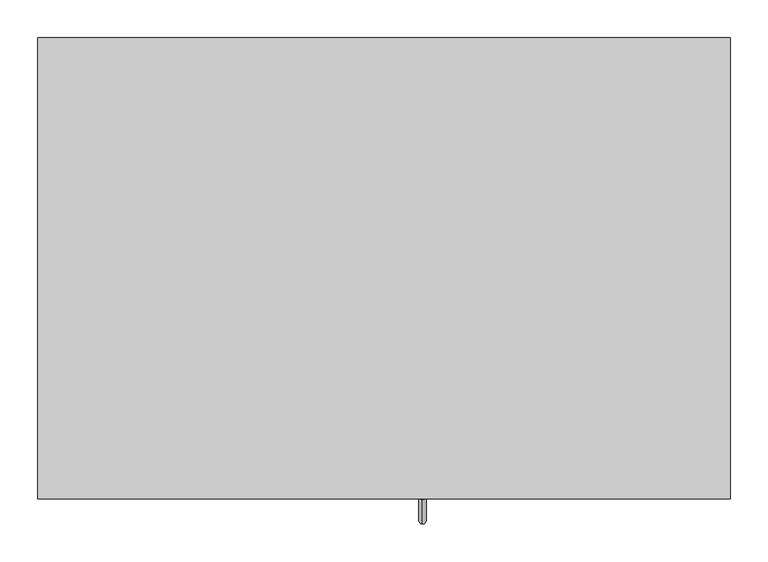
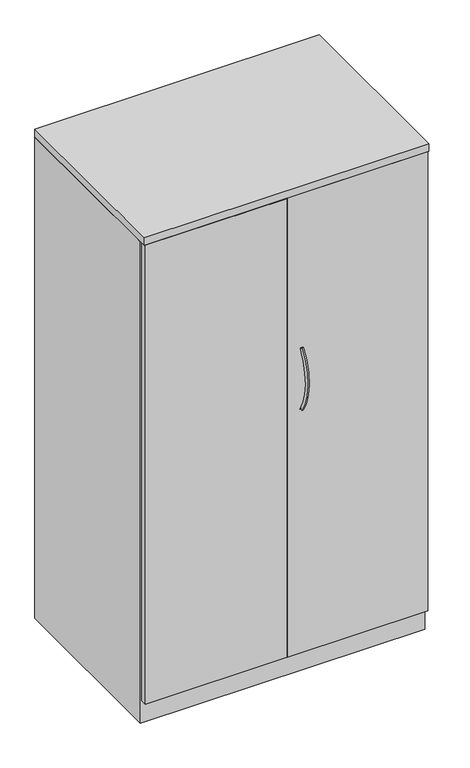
"""IFC4 building model written with IfcOpenShell, lengths in millimetres: furniture geometry, Steelcase - Universal Storage - Cabinet - Wardrobe - 66H-84H - Proud Steel : Side to Side Coat Rod - 65 1/2H x 24D x 36W."""

from ifc_helpers import new_model, si_unit, point, frame, origin, place, context, project, spatial, polyline, circle_curve, ellipse_curve, trimmed, outline, extrude, faceted_brep, source, transform, mapped, element, save
from ifc_brep_helpers import plane_surface, revolved_surface, advanced_brep


def furniture_80f613a1(model_context):
    return source(origin(), model_context, "Body", "SolidModel", [
        extrude(outline(polyline([(914.4, 130.048), (914.4, -479.552), (0.0, -479.552), (0.0, 130.048), (914.4, 130.048)])), frame((0.0, 0.0, 1638.2999516), z_axis=(0.0, 0.0, 1.0), x_axis=(1.0, 0.0, 0.0)), (0.0, 0.0, 1.0), 25.4),
        extrude(outline(polyline([(457.2, -479.552), (3.1725353, -479.552), (3.1725353, -457.3261219), (457.2, -457.3261219), (457.2, -479.552)])), frame((0.0, 0.0, 77.724), z_axis=(0.0, 0.0, 1.0), x_axis=(1.0, 0.0, 0.0)), (0.0, 0.0, 1.0), 1559.052),
        extrude(outline(polyline([(911.2225413, -479.552), (458.7239992, -479.552), (458.7239992, -457.3261219), (911.2225413, -457.3261219), (911.2225413, -479.552)])), frame((0.0, 0.0, 77.724), z_axis=(0.0, 0.0, 1.0), x_axis=(1.0, 0.0, 0.0)), (0.0, 0.0, 1.0), 1559.052),
        advanced_brep(
        [(507.9682496, -480.0678374, 1114.4756859), (507.9682496, -471.5857696, 1108.8828219), (507.9682496, -477.4964738, 894.418042), (507.9682496, -469.1474089, 900.2075769)],
        [
            (0, 1, circle_curve(frame((507.9682496, -475.8268035, 1111.6792539), z_axis=(0.0, 0.5504787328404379, 0.8348491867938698), x_axis=(0.0, 0.8348491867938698, -0.5504787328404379)), 5.08)),
            (1, 0, circle_curve(frame((507.9682496, -475.8268035, 1111.6792539), z_axis=(0.0, 0.5504787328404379, 0.8348491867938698), x_axis=(0.0, 0.8348491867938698, -0.5504787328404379)), 5.08)),
            (2, 3, circle_curve(frame((507.9682496, -473.3219413, 897.3128094), z_axis=(0.0, 0.5698361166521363, -0.8217583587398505), x_axis=(0.0, 0.8217583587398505, 0.5698361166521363)), 5.08)),
            (3, 2, circle_curve(frame((507.9682496, -473.3219413, 897.3128094), z_axis=(0.0, 0.5698361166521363, -0.8217583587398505), x_axis=(0.0, 0.8217583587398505, 0.5698361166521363)), 5.08)),
            (3, 1, circle_curve(frame((507.9682496, -316.0827352, 1006.3479992), z_axis=(-1.0, 0.0, 0.0), x_axis=(0.0, -0.83484918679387, 0.5504787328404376)), 186.2648211)),
            (0, 2, circle_curve(frame((507.9682496, -316.0827352, 1006.3479992), z_axis=(1.0, 0.0, 0.0), x_axis=(0.0, -0.83484918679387, 0.5504787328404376)), 196.4248211)),
        ],
        [
            plane_surface(frame((508.7619996, -475.1785718, 1111.2518261), z_axis=(0.0, 0.5504787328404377, 0.83484918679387), x_axis=(1.0, 0.0, 0.0))),
            plane_surface(frame((508.7619996, -472.6838742, 897.7552676), z_axis=(0.0, 0.5698361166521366, -0.8217583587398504), x_axis=(1.0, 0.0, 0.0))),
            revolved_surface(trimmed(ellipse_curve(frame((507.9682496, -475.8268035, 1111.6792539), z_axis=(0.0, 0.5504787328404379, 0.8348491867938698), x_axis=(0.0, 0.8348491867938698, -0.5504787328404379)), 5.08, 5.08), [point((507.9682496, -480.0678374, 1114.4756859))], [point((507.9682496, -471.5857696, 1108.8828219))], True, "CARTESIAN"), (508.7619996, -316.0827352, 1006.3479992), (1.0, 0.0, 0.0)),
            revolved_surface(trimmed(ellipse_curve(frame((507.9682496, -475.8268035, 1111.6792539), z_axis=(0.0, 0.5504787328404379, 0.8348491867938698), x_axis=(0.0, 0.8348491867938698, -0.5504787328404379)), 5.08, 5.08), [point((507.9682496, -471.5857696, 1108.8828219))], [point((507.9682496, -480.0678374, 1114.4756859))], True, "CARTESIAN"), (508.7619996, -316.0827352, 1006.3479992), (1.0, 0.0, 0.0)),
        ],
        [
            (0, [[1, 2]]),
            (1, [[3, 4]]),
            (2, [[5, -1, 6, -4]]),
            (3, [[-6, -2, -5, -3]]),
        ],
    ),
        faceted_brep([(25.4000008, -457.3261219, 76.2), (889.0000242, -457.3261219, 76.2), (889.0000242, 104.6479992, 76.2), (25.4000008, 104.6479992, 76.2), (914.4, 130.048, 0.0), (914.4, -457.3261219, 0.0), (0.0, -457.3261219, 0.0), (0.0, 130.048, 0.0), (0.0, 130.048, 1636.776), (914.4, 130.048, 1636.776), (0.0, -457.3261219, 1636.776), (914.4, -457.3261219, 1636.776), (889.0000242, -457.3261219, 1636.776), (25.4000008, -457.3261219, 1636.776), (889.0000242, 104.6479992, 1636.776), (25.4000008, 104.6479992, 1636.776)], [[[0, 1, 2, 3]], [[4, 5, 6, 7]], [[4, 7, 8, 9]], [[8, 7, 6, 10]], [[10, 6, 5, 11, 12, 1, 0, 13]], [[11, 5, 4, 9]], [[14, 12, 11, 9, 8, 10, 13, 15]], [[12, 14, 2, 1]], [[15, 13, 0, 3]], [[14, 15, 3, 2]]]),
    ])


if __name__ == "__main__":
    model = new_model("IFC4")
    model_context = context("Model", 3, world=origin())
    ifc_project = project(units=[si_unit("LENGTHUNIT", "METRE", prefix="MILLI")], contexts=[model_context])
    site = spatial("IfcSite", under=ifc_project)
    building = spatial("IfcBuilding", under=site)
    placement = place(None, origin())
    furniture_shape = furniture_80f613a1(model_context)
    element("IfcFurniture", 1, ObjectType="Steelcase - Universal Storage - Cabinet - Wardrobe - 66H-84H - Proud Steel : Side to Side Coat Rod - 65 1/2H x 24D x 36W", at=placement, inside=building, context=model_context, shape_type="MappedRepresentation", body=[
        mapped(furniture_shape, transform((0.0, 0.0, 0.0), x_axis=(1.0, 0.0, 0.0), y_axis=(0.0, 1.0, 0.0), z_axis=(0.0, 0.0, 1.0))),
    ])
    save(model, "model.ifc")
